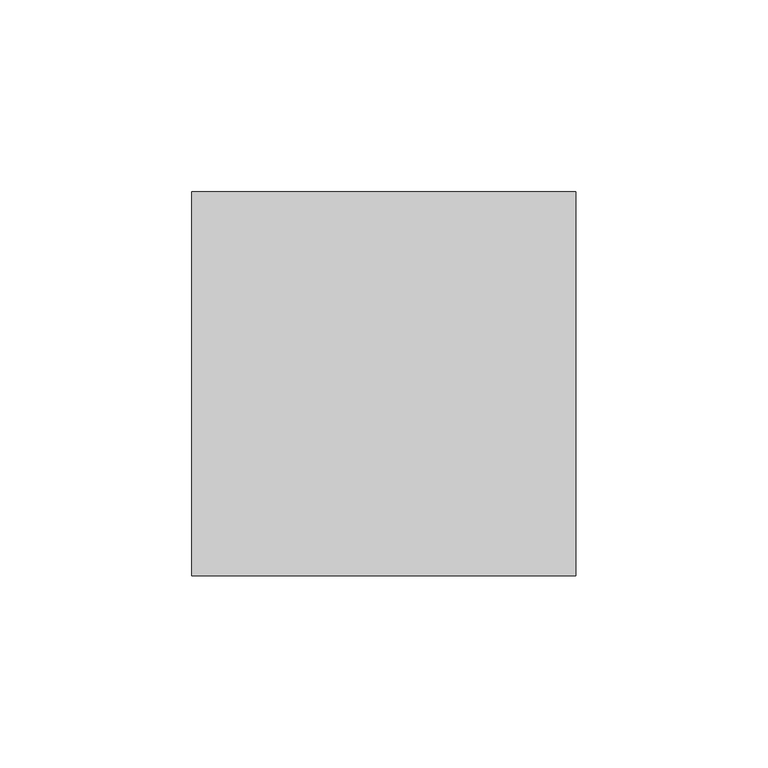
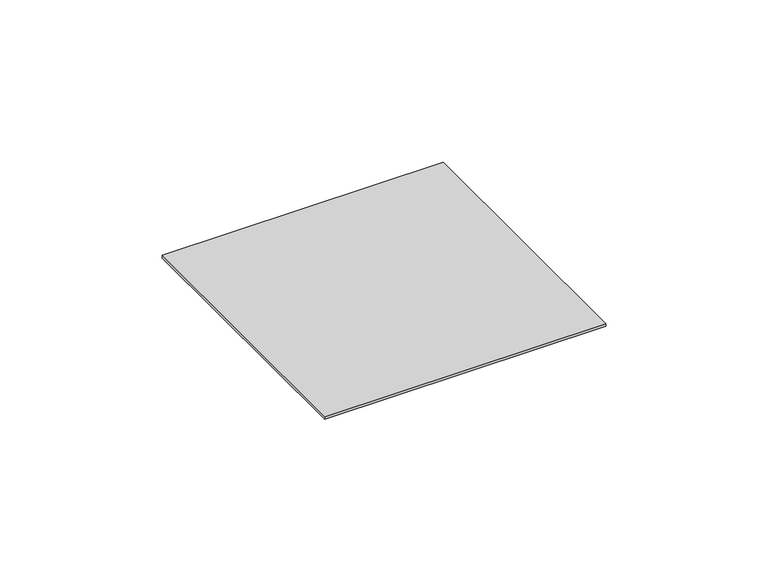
"""IFC4 building model written with IfcOpenShell, lengths in millimetres: proxy geometry, Placeholder : Placeholder."""

from ifc_helpers import new_model, si_unit, origin, origin_with_axes, place, context, project, spatial, polyline, outline, extrude, source, transform, mapped, element, save


def generic_models_feed3d8b(model_context):
    return source(origin(), model_context, "Body", "SweptSolid", [
        extrude(outline(polyline([(50.0, 50.0), (50.0, -50.0), (-50.0, -50.0), (-50.0, 50.0), (50.0, 50.0)])), origin_with_axes(), (0.0, 0.0, 1.0), 1.0),
    ])


if __name__ == "__main__":
    model = new_model("IFC4")
    model_context = context("Model", 3, world=origin())
    ifc_project = project(units=[si_unit("LENGTHUNIT", "METRE", prefix="MILLI")], contexts=[model_context])
    site = spatial("IfcSite", under=ifc_project)
    building = spatial("IfcBuilding", under=site)
    placement = place(None, origin())
    generic_models_shape = generic_models_feed3d8b(model_context)
    element("IfcBuildingElementProxy", 1, Name="Placeholder : Placeholder", ObjectType="Placeholder : Placeholder", at=placement, inside=building, context=model_context, shape_type="MappedRepresentation", body=[
        mapped(generic_models_shape, transform((0.0, 0.0, 0.0), x_axis=(1.0, 0.0, 0.0), y_axis=(0.0, 1.0, 0.0), z_axis=(0.0, 0.0, 1.0))),
    ])
    save(model, "model.ifc")
